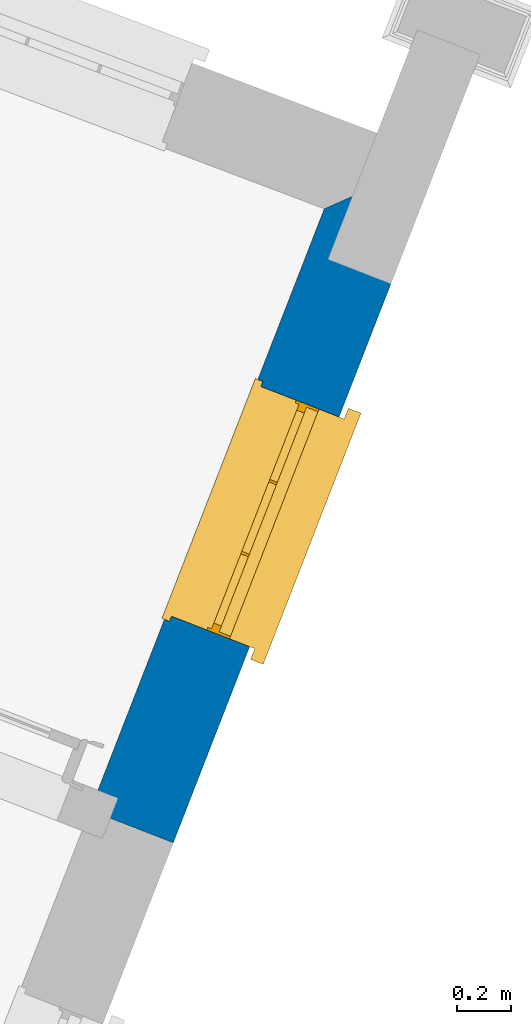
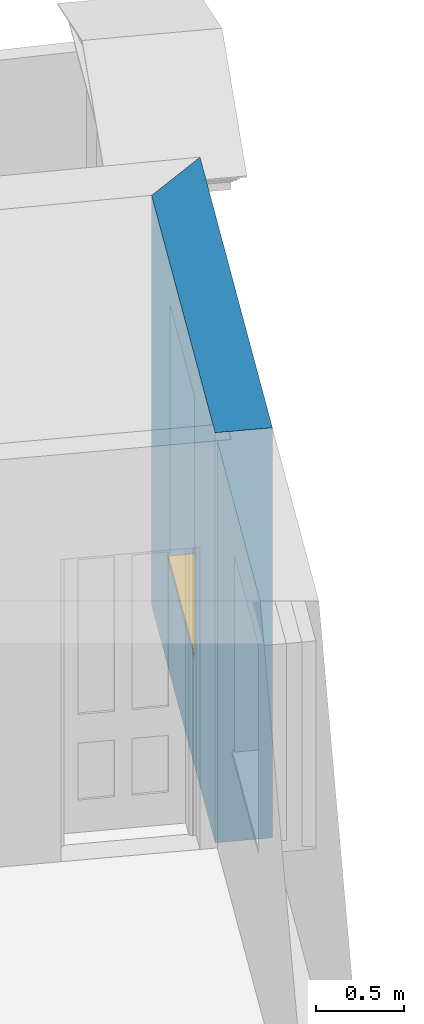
# One storey, part 7 of 10: 1 wall, 1 window, 1 opening.
"""IFC4 building model written with IfcOpenShell, lengths in metres."""

from ifc_helpers import new_model, si_unit, frame, origin, origin_with_axes, place, context, subcontext, project, spatial, polyline, outline, extrude, faceted_brep, source, transform, mapped, material, layer, layer_set, layer_usage, type_object, type_shapes, element, fill, save


model = new_model("IFC4")

# Units and contexts
model_context = context("Model", 3, world=origin_with_axes())
body_context = subcontext(model_context, "Body", "Model", "MODEL_VIEW")
ifc_project = project(units=[si_unit("PLANEANGLEUNIT", "RADIAN"), si_unit("MASSUNIT", "GRAM", prefix="KILO"), si_unit("FORCEUNIT", "NEWTON", prefix="KILO"), si_unit("LENGTHUNIT", "METRE"), si_unit("AREAUNIT", "SQUARE_METRE"), si_unit("VOLUMEUNIT", "CUBIC_METRE")], contexts=[model_context, model_context])

# Sites, building, storey
site_1_placement = place(None, origin_with_axes())
site_1 = spatial("IfcSite", under=ifc_project, at=site_1_placement, Name="Tamar")
site_2_placement = place(site_1_placement, origin_with_axes())
site_2 = spatial("IfcSite", under=site_1, at=site_2_placement, Name="Site plot-8", CompositionType="ELEMENT")
building_placement = place(None, origin_with_axes())
building = spatial("IfcBuilding", under=site_2, at=building_placement, Name="Building plot-8", CompositionType="ELEMENT")
storey_placement = place(None, frame((0.0, 0.0, 26.0), z_axis=(0.0, 0.0, 1.0), x_axis=(1.0, 0.0, 0.0)))
storey = spatial("IfcBuildingStorey", under=building, at=storey_placement, Name="plot-8 0", CompositionType="ELEMENT", Elevation=26.0)

# Wall, opening, window
ifc_material = material(Name="Masonry")
ifc_layer = layer(ifc_material, 0.33, ventilated=False)
ifc_layer_set = layer_set([ifc_layer], Name="exterior_0.08_0.25")
ifc_layer_usage = layer_usage(ifc_layer_set, "AXIS2", "POSITIVE", -0.25)
wall_type = type_object("IfcWallType", Name="exterior_0.08_0.25", PredefinedType="SOLIDWALL", material=ifc_layer_set)
wall_placement = place(storey_placement, frame((230.544976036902, 306.768588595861, 0.0), z_axis=(0.0, 0.0, 1.0), x_axis=(0.362808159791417, 0.931863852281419, 0.0)))
wall = element("IfcWall", 1, at=wall_placement, inside=storey, type_object=wall_type, material=ifc_layer_usage, Name="exterior", context=body_context, shape_type="SweptSolid", body=[
    extrude(outline(polyline([(2.13567077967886e-14, 0.0800000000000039), (-2.03572844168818e-14, -0.249999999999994), (2.71687862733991, -0.249999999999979), (2.38382254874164, 0.0800000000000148), (2.13567077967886e-14, 0.0800000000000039)])), origin_with_axes(), (0.0, 0.0, 1.0), 2.85),
])
opening_placement = place(wall_placement, frame((0.777281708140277, 0.0, 0.75)))
opening = element("IfcOpeningElement", 2, at=opening_placement, cuts=wall, Name="My Opening", ObjectType="Opening", context=body_context, shape_type="SweptSolid", body=[
    extrude(outline(polyline([(0.0, -0.269999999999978), (0.910000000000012, -0.269999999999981), (0.909999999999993, 1.1), (-1.94289029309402e-14, 1.1), (0.0, -0.269999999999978)])), origin_with_axes(), (0.0, 0.0, 1.0), 1.82),
])
window_type = type_object("IfcWindowType", Name="sash_big", PartitioningType="DOUBLE_PANEL_HORIZONTAL", PredefinedType="NOTDEFINED")
shared_shape = source(origin(), body_context, "Body", "Brep", [
    faceted_brep([(0.033125, 0.145, 0.975209), (0.01, 0.145, 0.975209), (0.033125, 0.145, 1.376042), (0.876875, 0.145, 0.975209), (0.876875, 0.145, 1.376042), (0.9, 0.145, 0.975209), (0.876875, 0.145, 1.386042), (0.876875, 0.145, 1.786875), (0.9, 0.145, 1.81), (0.033125, 0.145, 1.786875), (0.033125, 0.145, 1.386042), (0.01, 0.145, 1.81), (0.876875, 0.115, 1.376042), (0.876875, 0.115, 0.975209), (0.9, 0.115, 0.937083), (0.033125, 0.115, 1.786875), (0.01, 0.115, 1.81), (0.033125, 0.115, 1.386042), (0.01, 0.115, 0.937083), (0.033125, 0.115, 0.975209), (0.033125, 0.115, 1.376042), (0.876875, 0.115, 1.786875), (0.876875, 0.115, 1.386042), (0.9, 0.115, 1.81), (0.033125, 0.145, 0.937083), (0.01, 0.145, 0.937083), (0.033125, 0.145, 0.53625), (0.876875, 0.145, 0.937083), (0.876875, 0.145, 0.53625), (0.9, 0.145, 0.937083), (0.876875, 0.145, 0.52625), (0.876875, 0.145, 0.125417), (0.9, 0.145, 0.077167), (0.033125, 0.145, 0.125417), (0.033125, 0.145, 0.52625), (0.01, 0.145, 0.077167), (-0.0425, 0.0, 0.01), (-0.0425, -0.05, 0.001667), (0.0, 0.0, 0.01), (0.9525, 0.0, 0.01), (0.91, 0.0, 0.01), (0.9525, -0.05, 0.001667), (-0.02, 0.33, 0.077167), (0.0, 0.33, 0.077167), (-0.02, 0.36, 0.077167), (0.0, 0.19, 0.077167), (0.01, 0.19, 0.077167), (0.91, 0.19, 0.077167), (0.91, 0.33, 0.077167), (0.9, 0.19, 0.077167), (0.93, 0.33, 0.077167), (0.93, 0.36, 0.077167), (0.01, 0.175, 0.975209), (0.9, 0.175, 0.975209), (0.876875, 0.175, 0.125417), (0.876875, 0.175, 0.52625), (0.9, 0.175, 0.077167), (0.876875, 0.175, 0.53625), (0.876875, 0.175, 0.937083), (0.033125, 0.175, 0.125417), (0.01, 0.175, 0.077167), (0.033125, 0.175, 0.52625), (0.033125, 0.175, 0.937083), (0.033125, 0.175, 0.53625), (-0.02, 0.33, 0.052167), (-0.02, 0.36, 0.052167), (0.93, 0.36, 0.052167), (0.93, 0.33, 0.052167), (0.91, 0.33, 0.052167), (0.0, 0.33, 0.052167), (0.91, 0.1, 0.026667), (0.0, 0.1, 0.026667), (-0.0425, -0.05, -0.123333), (0.9525, -0.05, -0.123333), (-0.0425, 0.0, -0.123333), (0.9525, 0.0, -0.123333), (0.01, 0.19, 1.81), (0.9, 0.19, 1.81), (0.0, 0.19, 1.82), (0.91, 0.19, 1.82), (0.01, 0.1, 0.077167), (0.9, 0.1, 0.077167), (0.592292, 0.145, 0.125417), (0.592292, 0.175, 0.125417), (0.317708, 0.175, 0.125417), (0.317708, 0.145, 0.125417), (0.592292, 0.145, 0.53625), (0.317708, 0.145, 0.53625), (0.317708, 0.145, 0.52625), (0.592292, 0.145, 0.52625), (0.592292, 0.175, 0.53625), (0.317708, 0.175, 0.53625), (0.592292, 0.115, 1.386042), (0.592292, 0.145, 1.386042), (0.317708, 0.145, 1.386042), (0.317708, 0.115, 1.386042), (0.317708, 0.115, 1.376042), (0.592292, 0.115, 1.376042), (0.317708, 0.145, 1.376042), (0.592292, 0.145, 1.376042), (0.602292, 0.115, 1.376042), (0.592292, 0.115, 0.975209), (0.602292, 0.115, 0.975209), (0.602292, 0.145, 0.975209), (0.592292, 0.145, 0.975209), (0.602292, 0.145, 1.376042), (0.602292, 0.175, 0.53625), (0.602292, 0.145, 0.53625), (0.317708, 0.175, 0.52625), (0.307708, 0.175, 0.125417), (0.307708, 0.175, 0.52625), (0.602292, 0.175, 0.52625), (0.602292, 0.175, 0.125417), (0.592292, 0.175, 0.52625), (0.307708, 0.175, 0.53625), (0.317708, 0.175, 0.937083), (0.307708, 0.175, 0.937083), (0.602292, 0.175, 0.937083), (0.592292, 0.175, 0.937083), (0.307708, 0.145, 0.52625), (0.307708, 0.145, 0.125417), (0.307708, 0.145, 0.53625), (0.307708, 0.145, 0.937083), (0.592292, 0.145, 0.937083), (0.317708, 0.145, 0.937083), (0.602292, 0.145, 0.937083), (0.602292, 0.145, 0.52625), (0.602292, 0.145, 0.125417), (0.307708, 0.115, 1.386042), (0.307708, 0.115, 1.376042), (0.307708, 0.115, 0.975209), (0.317708, 0.115, 0.975209), (0.317708, 0.115, 1.786875), (0.307708, 0.115, 1.786875), (0.602292, 0.115, 1.786875), (0.592292, 0.115, 1.786875), (0.602292, 0.115, 1.386042), (0.602292, 0.145, 1.386042), (0.307708, 0.145, 1.386042), (0.307708, 0.145, 1.786875), (0.317708, 0.145, 1.786875), (0.592292, 0.145, 1.786875), (0.602292, 0.145, 1.786875), (0.307708, 0.145, 1.376042), (0.317708, 0.145, 0.975209), (0.307708, 0.145, 0.975209), (0.91, 0.1, 1.82), (0.9, 0.1, 1.81), (0.01, 0.1, 1.81), (0.0, 0.1, 1.82), (0.91, 0.0, 0.0), (0.0, 0.0, 0.0), (0.91, 0.33, 0.0), (0.0, 0.33, 0.0)], [[[0, 1, 2]], [[3, 4, 5]], [[6, 7, 8]], [[9, 10, 11]], [[12, 13, 14]], [[15, 16, 17]], [[18, 19, 20]], [[21, 22, 23]], [[24, 25, 26]], [[27, 28, 29]], [[30, 31, 32]], [[33, 34, 35]], [[14, 27, 29]], [[25, 24, 18]], [[36, 37, 38]], [[39, 40, 41]], [[42, 43, 44]], [[45, 46, 43]], [[47, 48, 49]], [[50, 51, 48]], [[1, 0, 52]], [[5, 53, 3]], [[54, 55, 56]], [[57, 58, 53]], [[59, 60, 61]], [[62, 63, 52]], [[48, 43, 46, 49]], [[51, 44, 43, 48]], [[64, 42, 44, 65]], [[65, 44, 51, 66]], [[66, 51, 50, 67]], [[65, 66, 68, 69]], [[60, 56, 49, 46]], [[70, 71, 38, 40]], [[37, 41, 40, 38]], [[37, 72, 73, 41]], [[74, 75, 73, 72]], [[8, 11, 76, 77]], [[76, 78, 79, 77]], [[32, 35, 80, 81]], [[81, 80, 71, 70]], [[82, 83, 84, 85]], [[86, 87, 88, 89]], [[86, 90, 91, 87]], [[92, 93, 94, 95]], [[92, 95, 96, 97]], [[96, 98, 99, 97]], [[100, 97, 101, 102]], [[103, 104, 99, 105]], [[97, 99, 104, 101]], [[102, 103, 105, 100]], [[28, 57, 106, 107]], [[108, 84, 109, 110]], [[111, 112, 83, 113]], [[114, 110, 61, 63]], [[90, 113, 108, 91]], [[115, 91, 114, 116]], [[117, 106, 90, 118]], [[111, 106, 57, 55]], [[119, 110, 109, 120]], [[34, 61, 110, 119]], [[89, 113, 83, 82]], [[88, 108, 113, 89]], [[85, 84, 108, 88]], [[121, 114, 63, 26]], [[122, 116, 114, 121]], [[123, 118, 90, 86]], [[87, 91, 115, 124]], [[107, 106, 117, 125]], [[126, 111, 55, 30]], [[127, 112, 111, 126]], [[126, 30, 28, 107]], [[88, 119, 120, 85]], [[126, 89, 82, 127]], [[125, 123, 86, 107]], [[121, 26, 34, 119]], [[124, 122, 121, 87]], [[128, 17, 20, 129]], [[96, 129, 130, 131]], [[132, 133, 128, 95]], [[134, 135, 92, 136]], [[100, 12, 22, 136]], [[137, 6, 4, 105]], [[94, 138, 139, 140]], [[137, 93, 141, 142]], [[99, 98, 94, 93]], [[143, 2, 10, 138]], [[144, 145, 143, 98]], [[129, 143, 145, 130]], [[20, 2, 143, 129]], [[131, 144, 98, 96]], [[128, 138, 10, 17]], [[133, 139, 138, 128]], [[135, 141, 93, 92]], [[95, 94, 140, 132]], [[22, 6, 137, 136]], [[136, 137, 142, 134]], [[100, 105, 4, 12]], [[107, 86, 89, 126]], [[106, 111, 113, 90]], [[91, 108, 110, 114]], [[87, 121, 119, 88]], [[97, 100, 136, 92]], [[129, 96, 95, 128]], [[98, 143, 138, 94]], [[105, 99, 93, 137]], [[131, 101, 104, 144]], [[124, 115, 118, 123]], [[132, 140, 141, 135]], [[120, 109, 59, 33]], [[15, 9, 139, 133]], [[134, 142, 7, 21]], [[31, 54, 112, 127]], [[36, 74, 72, 37]], [[39, 41, 73, 75]], [[18, 14, 101, 131]], [[23, 16, 132, 135]], [[83, 56, 60, 84]], [[52, 53, 118, 115]], [[53, 52, 144, 104]], [[11, 8, 141, 140]], [[14, 18, 124, 123]], [[2, 1, 11, 10]], [[8, 5, 4, 6]], [[57, 53, 56, 55]], [[60, 52, 63, 61]], [[26, 25, 35, 34]], [[32, 29, 28, 30]], [[14, 23, 22, 12]], [[18, 20, 17, 16]], [[19, 0, 2, 20]], [[17, 10, 9, 15]], [[12, 4, 3, 13]], [[21, 7, 6, 22]], [[27, 58, 57, 28]], [[30, 55, 54, 31]], [[33, 59, 61, 34]], [[26, 63, 62, 24]], [[5, 8, 77, 53]], [[76, 11, 1, 52]], [[46, 45, 78, 76]], [[49, 77, 79, 47]], [[70, 146, 147, 81]], [[71, 80, 148, 149]], [[19, 130, 145, 0]], [[102, 13, 3, 103]], [[116, 122, 24, 62]], [[29, 32, 81, 14]], [[80, 35, 25, 18]], [[60, 46, 76, 52]], [[77, 49, 56, 53]], [[23, 14, 81, 147]], [[16, 148, 80, 18]], [[35, 85, 120]], [[120, 33, 35]], [[127, 82, 32]], [[32, 31, 127]], [[32, 82, 85, 35]], [[102, 101, 14]], [[14, 13, 102]], [[18, 131, 130]], [[130, 19, 18]], [[134, 21, 23]], [[23, 135, 134]], [[16, 15, 133]], [[133, 132, 16]], [[11, 140, 139]], [[139, 9, 11]], [[142, 141, 8]], [[8, 7, 142]], [[23, 147, 148, 16]], [[146, 149, 148, 147]], [[52, 115, 116]], [[116, 62, 52]], [[118, 53, 117]], [[58, 117, 53]], [[27, 125, 117, 58]], [[56, 83, 112]], [[112, 54, 56]], [[109, 84, 60]], [[60, 59, 109]], [[125, 27, 14]], [[14, 123, 125]], [[122, 124, 18]], [[18, 24, 122]], [[145, 144, 52]], [[52, 0, 145]], [[103, 3, 53]], [[53, 104, 103]], [[79, 78, 149, 146]], [[78, 45, 71, 149]], [[146, 70, 47, 79]], [[150, 75, 74, 151]], [[68, 66, 67]], [[48, 68, 67, 50]], [[69, 64, 65]], [[42, 64, 69, 43]], [[69, 68, 152, 153]], [[70, 68, 48, 47]], [[150, 152, 68, 70]], [[43, 69, 71, 45]], [[69, 153, 151, 71]], [[152, 150, 151, 153]], [[38, 151, 74, 36]], [[71, 151, 38]], [[39, 75, 150, 40]], [[40, 150, 70]]]),
])
type_shapes(window_type, [shared_shape])
window_placement = place(storey_placement, frame((231.078583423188, 307.394951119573, 0.75), z_axis=(0.0, 0.0, 1.0), x_axis=(0.330155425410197, 0.847996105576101, 0.0)))
window = element("IfcWindow", 3, at=window_placement, inside=storey, type_object=window_type, Name="circulation street window", OverallHeight=1.82, OverallWidth=0.91, context=body_context, shape_type="MappedRepresentation", body=[
    mapped(shared_shape, transform((0.0, 0.0, 0.0), scale=1.0)),
])
fill(opening, window)

save(model, "model.ifc")
